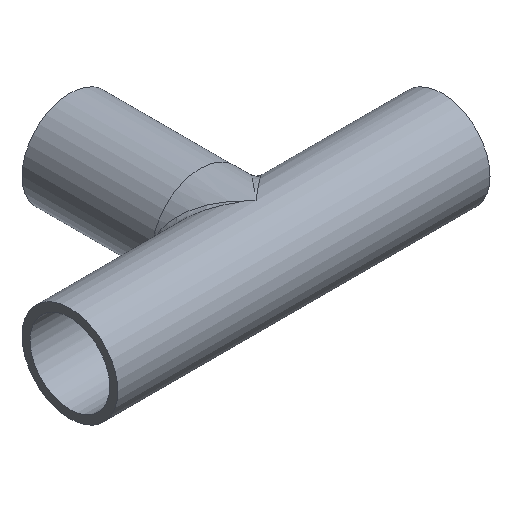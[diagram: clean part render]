
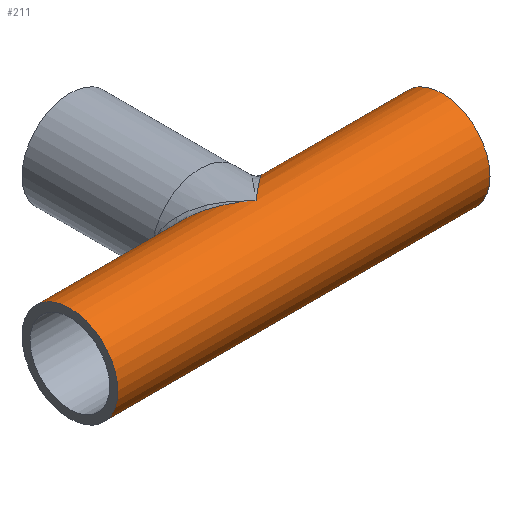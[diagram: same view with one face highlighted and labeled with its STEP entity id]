
A CAD part, isometric view. The second image highlights one B-rep face of the part: STEP entity #211.
In plain terms, the highlighted cylindrical face has radius 9 mm (diameter 18 mm), a full revolution.
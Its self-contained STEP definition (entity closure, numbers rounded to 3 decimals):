
#16=FACE_BOUND('',#75,.T.);
#17=FACE_BOUND('',#76,.T.);
#35=CIRCLE('',#240,9.);
#36=CIRCLE('',#241,9.);
#45=CYLINDRICAL_SURFACE('',#239,9.);
#57=FACE_OUTER_BOUND('',#74,.T.);
#74=EDGE_LOOP('',(#159));
#75=EDGE_LOOP('',(#160,#161));
#76=EDGE_LOOP('',(#162));
#99=ELLIPSE('',#228,13.829,9.);
#102=ELLIPSE('',#231,13.829,9.);
#107=VERTEX_POINT('',#1032);
#108=VERTEX_POINT('',#1034);
#111=VERTEX_POINT('',#1289);
#112=VERTEX_POINT('',#1291);
#124=EDGE_CURVE('',#107,#108,#99,.T.);
#127=EDGE_CURVE('',#108,#107,#102,.T.);
#132=EDGE_CURVE('',#111,#111,#35,.T.);
#133=EDGE_CURVE('',#112,#112,#36,.T.);
#159=ORIENTED_EDGE('',*,*,#132,.T.);
#160=ORIENTED_EDGE('',*,*,#124,.F.);
#161=ORIENTED_EDGE('',*,*,#127,.F.);
#162=ORIENTED_EDGE('',*,*,#133,.F.);
#211=ADVANCED_FACE('',(#57,#16,#17),#45,.T.);
#228=AXIS2_PLACEMENT_3D('',#1035,#268,#269);
#231=AXIS2_PLACEMENT_3D('',#1279,#274,#275);
#239=AXIS2_PLACEMENT_3D('',#1288,#290,#291);
#240=AXIS2_PLACEMENT_3D('',#1290,#292,#293);
#241=AXIS2_PLACEMENT_3D('',#1292,#294,#295);
#268=DIRECTION('center_axis',(-0.651,0.759,0.));
#269=DIRECTION('ref_axis',(0.759,0.651,0.));
#274=DIRECTION('center_axis',(0.651,0.759,0.));
#275=DIRECTION('ref_axis',(-0.759,0.651,0.));
#290=DIRECTION('center_axis',(1.,0.,0.));
#291=DIRECTION('ref_axis',(0.,-1.,0.));
#292=DIRECTION('center_axis',(-1.,0.,0.));
#293=DIRECTION('ref_axis',(0.,-1.,0.));
#294=DIRECTION('center_axis',(-1.,0.,0.));
#295=DIRECTION('ref_axis',(0.,-1.,0.));
#1032=CARTESIAN_POINT('',(35.,0.,9.));
#1034=CARTESIAN_POINT('',(35.,0.,-9.));
#1035=CARTESIAN_POINT('Origin',(35.,0.,0.));
#1279=CARTESIAN_POINT('Origin',(35.,0.,0.));
#1288=CARTESIAN_POINT('Origin',(0.,0.,0.));
#1289=CARTESIAN_POINT('',(70.,9.,0.));
#1290=CARTESIAN_POINT('Origin',(70.,0.,0.));
#1291=CARTESIAN_POINT('',(0.,9.,0.));
#1292=CARTESIAN_POINT('Origin',(0.,0.,0.));
